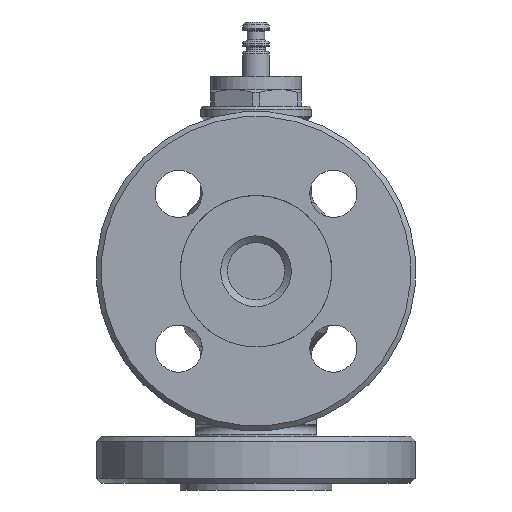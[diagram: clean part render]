
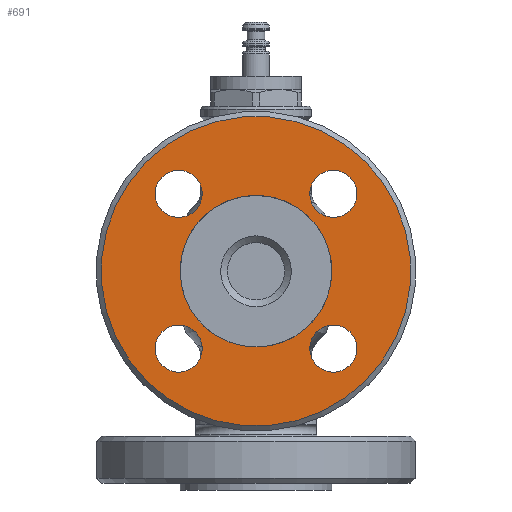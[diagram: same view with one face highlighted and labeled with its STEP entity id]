
A CAD part, left-side view. The second image highlights one B-rep face of the part: STEP entity #691.
In plain terms, the highlighted planar face has unit normal (-1, 0, 0).
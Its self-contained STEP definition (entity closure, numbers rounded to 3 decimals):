
#401=FACE_BOUND('',#1159,.T.);
#402=FACE_BOUND('',#1160,.T.);
#403=FACE_BOUND('',#1161,.T.);
#404=FACE_BOUND('',#1162,.T.);
#405=FACE_BOUND('',#1163,.T.);
#406=FACE_BOUND('',#1164,.T.);
#691=ADVANCED_FACE('',(#401,#402,#403,#404,#405,#406),#837,.T.);
#837=PLANE('',#3565);
#1159=EDGE_LOOP('',(#2126));
#1160=EDGE_LOOP('',(#2127));
#1161=EDGE_LOOP('',(#2128));
#1162=EDGE_LOOP('',(#2129));
#1163=EDGE_LOOP('',(#2130));
#1164=EDGE_LOOP('',(#2131));
#1476=CIRCLE('',#3559,46.);
#1477=CIRCLE('',#3560,22.5);
#1478=CIRCLE('',#3561,7.);
#1479=CIRCLE('',#3562,7.);
#1480=CIRCLE('',#3563,7.);
#1481=CIRCLE('',#3564,7.);
#2126=ORIENTED_EDGE('',*,*,#3031,.T.);
#2127=ORIENTED_EDGE('',*,*,#3032,.F.);
#2128=ORIENTED_EDGE('',*,*,#3033,.T.);
#2129=ORIENTED_EDGE('',*,*,#3034,.T.);
#2130=ORIENTED_EDGE('',*,*,#3035,.T.);
#2131=ORIENTED_EDGE('',*,*,#3036,.T.);
#2670=VERTEX_POINT('',#11124);
#2671=VERTEX_POINT('',#11126);
#2672=VERTEX_POINT('',#11128);
#2673=VERTEX_POINT('',#11130);
#2674=VERTEX_POINT('',#11132);
#2675=VERTEX_POINT('',#11134);
#3031=EDGE_CURVE('',#2670,#2670,#1476,.T.);
#3032=EDGE_CURVE('',#2671,#2671,#1477,.T.);
#3033=EDGE_CURVE('',#2672,#2672,#1478,.T.);
#3034=EDGE_CURVE('',#2673,#2673,#1479,.T.);
#3035=EDGE_CURVE('',#2674,#2674,#1480,.T.);
#3036=EDGE_CURVE('',#2675,#2675,#1481,.T.);
#3559=AXIS2_PLACEMENT_3D('',#11123,#4253,#4254);
#3560=AXIS2_PLACEMENT_3D('',#11125,#4255,#4256);
#3561=AXIS2_PLACEMENT_3D('',#11127,#4257,#4258);
#3562=AXIS2_PLACEMENT_3D('',#11129,#4259,#4260);
#3563=AXIS2_PLACEMENT_3D('',#11131,#4261,#4262);
#3564=AXIS2_PLACEMENT_3D('',#11133,#4263,#4264);
#3565=AXIS2_PLACEMENT_3D('',#11135,#4265,#4266);
#4253=DIRECTION('',(-1.,0.,0.));
#4254=DIRECTION('',(0.,0.707,0.707));
#4255=DIRECTION('',(-1.,0.,0.));
#4256=DIRECTION('',(0.,0.707,0.707));
#4257=DIRECTION('',(1.,0.,0.));
#4258=DIRECTION('',(0.,-0.707,0.707));
#4259=DIRECTION('',(1.,0.,0.));
#4260=DIRECTION('',(0.,0.707,0.707));
#4261=DIRECTION('',(1.,0.,0.));
#4262=DIRECTION('',(0.,0.707,-0.707));
#4263=DIRECTION('',(1.,0.,0.));
#4264=DIRECTION('',(0.,-0.707,-0.707));
#4265=DIRECTION('',(-1.,0.,0.));
#4266=DIRECTION('',(0.,0.707,0.707));
#11123=CARTESIAN_POINT('',(37.,0.,100.));
#11124=CARTESIAN_POINT('',(37.,32.527,132.527));
#11125=CARTESIAN_POINT('',(37.,0.,100.));
#11126=CARTESIAN_POINT('',(37.,15.91,115.91));
#11127=CARTESIAN_POINT('',(37.,22.981,122.981));
#11128=CARTESIAN_POINT('',(37.,18.031,127.931));
#11129=CARTESIAN_POINT('',(37.,22.981,77.019));
#11130=CARTESIAN_POINT('',(37.,27.931,81.969));
#11131=CARTESIAN_POINT('',(37.,-22.981,77.019));
#11132=CARTESIAN_POINT('',(37.,-18.031,72.069));
#11133=CARTESIAN_POINT('',(37.,-22.981,122.981));
#11134=CARTESIAN_POINT('',(37.,-27.931,118.031));
#11135=CARTESIAN_POINT('',(37.,0.,100.));
